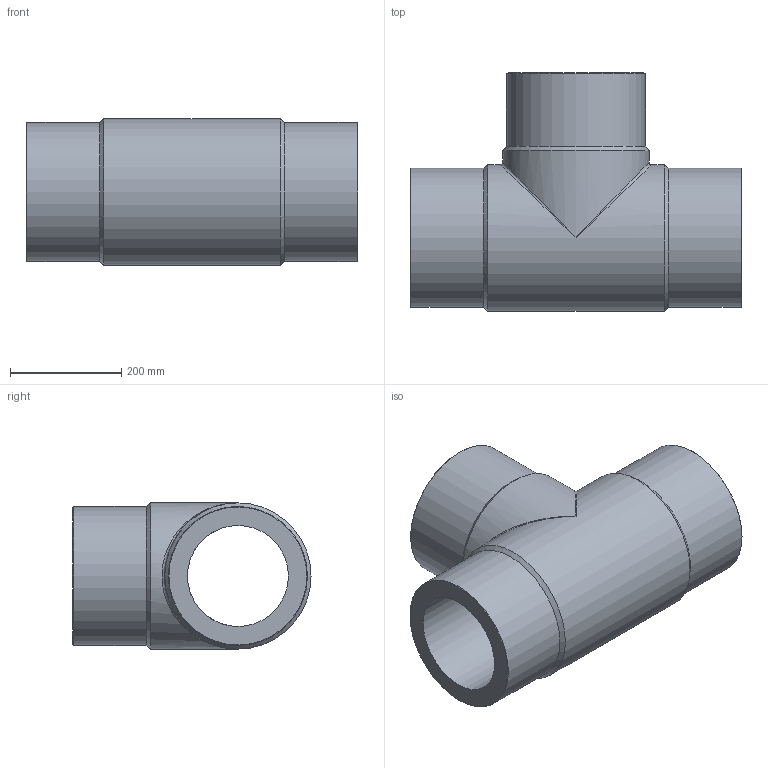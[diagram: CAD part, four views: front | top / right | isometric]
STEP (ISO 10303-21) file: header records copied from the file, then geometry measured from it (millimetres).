
FILE_DESCRIPTION(/* description */ ('Unknown'),/* implementation_level */ '2;1');
FILE_NAME(/* name */ 'TP250H',/* time_stamp */ '2021-08-06T10:15:12+02:00',/* author */ ('Unknown'),/* organization */ ('Unknown'),/* preprocessor_version */ 'ST-DEVELOPER v16.7',/* originating_system */ 'Solid Edge',/* authorisation */ 'Unknown');
FILE_SCHEMA (('AUTOMOTIVE_DESIGN {1 0 10303 214 3 1 1}'));
Length unit declared in the file: millimetre
Products named in the file (1): TP250H
Bounding box: 596 x 428 x 263 mm (x, y, z)
Volume: 19167834.7 mm3; surface area: 1099014.2 mm2
Topology: 1 solids, 1 shells, 18 faces, 44 edges, 23 vertices
Faces by surface type: cylinder 7, cone 6, plane 3, bspline 2
Full cylindrical faces by diameter (mm): 181.6 x2, 250 x3, 263 x2
Entity records: 528 total; most frequent: CARTESIAN_POINT 171, DIRECTION 76, ORIENTED_EDGE 42, AXIS2_PLACEMENT_3D 38, EDGE_LOOP 36, FACE_BOUND 36, EDGE_CURVE 21, VERTEX_POINT 19
